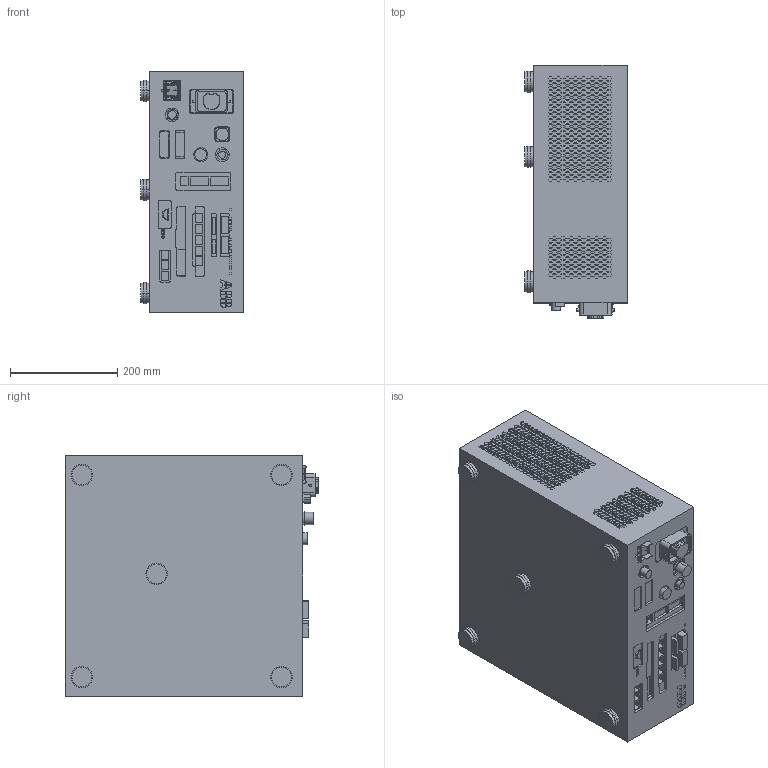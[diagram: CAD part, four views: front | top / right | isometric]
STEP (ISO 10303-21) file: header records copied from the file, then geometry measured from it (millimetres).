
FILE_DESCRIPTION (( 'STEP AP214' ), '1' );
FILE_NAME ('MC Small controller-simple.STEP', '2019-04-11T01:42:40', ( 'ABB' ), ( 'ABB' ), 'SwSTEP 2.0', 'SolidWorks 2016', '' );
FILE_SCHEMA (( 'AUTOMOTIVE_DESIGN' ));
Length unit declared in the file: millimetre
Products named in the file (1): MC Small controller-simple
Bounding box: 191.1 x 473.2 x 449 mm (x, y, z)
Surface area: 804740.9 mm2 (no closed solid volume)
Topology: 0 solids, 18 shells, 5601 faces, 14376 edges, 9562 vertices
Faces by surface type: plane 5217, cylinder 335, bspline 17, torus 16, cone 12, sphere 4
Entity records: 169592 total; most frequent: CARTESIAN_POINT 30684, ORIENTED_EDGE 28744, DIRECTION 26212, EDGE_CURVE 14376, LINE 13626, VECTOR 13626, VERTEX_POINT 9562, EDGE_LOOP 6386
